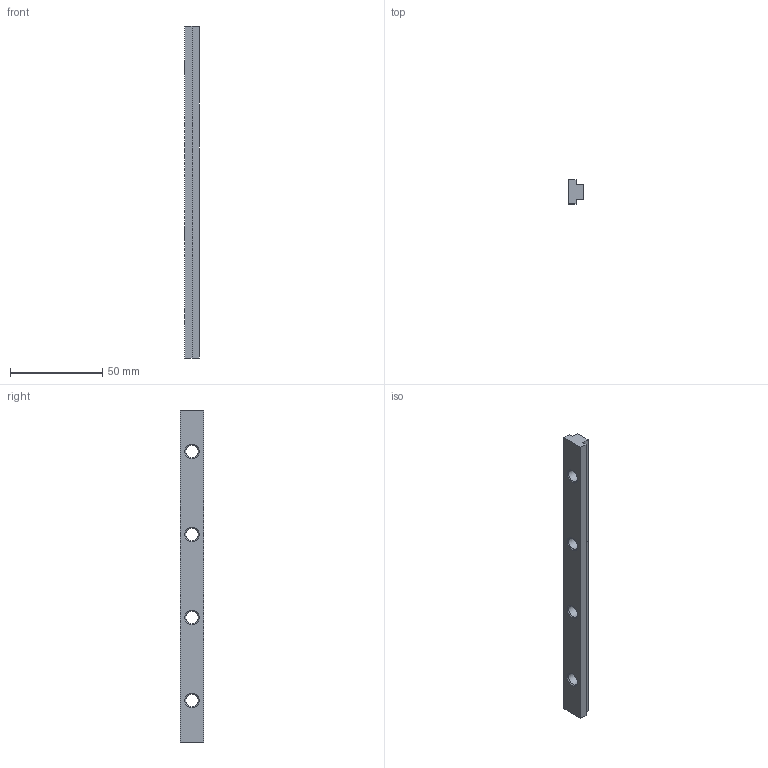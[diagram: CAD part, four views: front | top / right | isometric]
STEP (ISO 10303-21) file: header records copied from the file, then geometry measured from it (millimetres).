
FILE_DESCRIPTION (( 'STEP AP214' ), '1' );
FILE_NAME ('SF01019.step', '2024-12-03T16:29:27', ( '' ), ( '' ), 'SwSTEP 2.0', 'SolidWorks 2023', '' );
FILE_SCHEMA (( 'AUTOMOTIVE_DESIGN' ));
Length unit declared in the file: millimetre
Products named in the file (1): SF01019
Bounding box: 8 x 13 x 180 mm (x, y, z)
Volume: 14079.5 mm3; surface area: 8075.2 mm2
Topology: 1 solids, 1 shells, 22 faces, 60 edges, 40 vertices
Faces by surface type: plane 10, cone 8, cylinder 4
Full cylindrical faces by diameter (mm): 6.8 x4
Entity records: 607 total; most frequent: DIRECTION 102, CARTESIAN_POINT 95, ORIENTED_EDGE 80, EDGE_LOOP 42, EDGE_CURVE 40, AXIS2_PLACEMENT_3D 39, VERTEX_POINT 32, FACE_OUTER_BOUND 26
